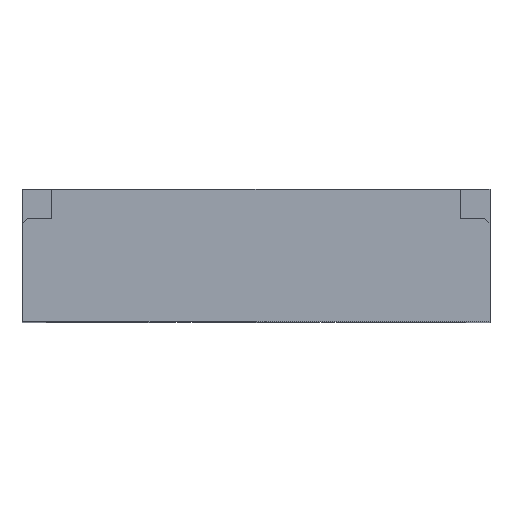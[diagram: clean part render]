
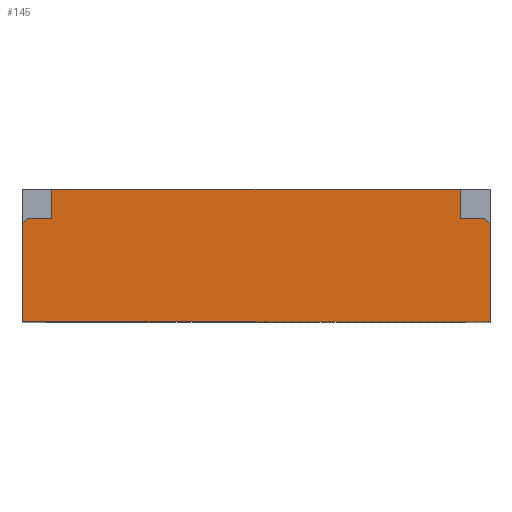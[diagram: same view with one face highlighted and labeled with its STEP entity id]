
A CAD part, top view. The second image highlights one B-rep face of the part: STEP entity #145.
In plain terms, the highlighted planar face has unit normal (0, 0, 1).
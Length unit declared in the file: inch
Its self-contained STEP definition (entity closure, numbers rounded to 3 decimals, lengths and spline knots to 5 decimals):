
#145=ADVANCED_FACE('',(#306),#2640,.T.);
#306=FACE_OUTER_BOUND('',#469,.T.);
#469=EDGE_LOOP('',(#1198,#1199,#1200,#1201,#1202,#1203,#1204,#1205,#1206,
#1207));
#1198=ORIENTED_EDGE('',*,*,#1369,.F.);
#1199=ORIENTED_EDGE('',*,*,#1367,.F.);
#1200=ORIENTED_EDGE('',*,*,#1368,.F.);
#1201=ORIENTED_EDGE('',*,*,#1760,.T.);
#1202=ORIENTED_EDGE('',*,*,#1715,.F.);
#1203=ORIENTED_EDGE('',*,*,#1716,.T.);
#1204=ORIENTED_EDGE('',*,*,#1717,.T.);
#1205=ORIENTED_EDGE('',*,*,#1719,.T.);
#1206=ORIENTED_EDGE('',*,*,#1718,.F.);
#1207=ORIENTED_EDGE('',*,*,#1762,.T.);
#1367=EDGE_CURVE('',#2261,#2262,#1847,.T.);
#1368=EDGE_CURVE('',#2494,#2261,#1848,.T.);
#1369=EDGE_CURVE('',#2262,#2495,#1849,.T.);
#1715=EDGE_CURVE('',#2470,#2497,#2126,.T.);
#1716=EDGE_CURVE('',#2470,#2471,#2127,.T.);
#1717=EDGE_CURVE('',#2471,#2473,#2128,.T.);
#1718=EDGE_CURVE('',#2498,#2472,#2129,.T.);
#1719=EDGE_CURVE('',#2473,#2472,#2130,.T.);
#1760=EDGE_CURVE('',#2494,#2497,#2171,.T.);
#1762=EDGE_CURVE('',#2498,#2495,#2173,.T.);
#1847=B_SPLINE_CURVE_WITH_KNOTS('',1,(#4134,#4135),.UNSPECIFIED.,.F.,.F.,
(2,2),(0.,4.3838),.UNSPECIFIED.);
#1848=B_SPLINE_CURVE_WITH_KNOTS('',1,(#4136,#4137),.UNSPECIFIED.,.F.,.F.,
(2,2),(-0.9229,0.),.UNSPECIFIED.);
#1849=B_SPLINE_CURVE_WITH_KNOTS('',1,(#4138,#4139),.UNSPECIFIED.,.F.,.F.,
(2,2),(0.,0.9229),.UNSPECIFIED.);
#2126=B_SPLINE_CURVE_WITH_KNOTS('',1,(#5224,#5225),.UNSPECIFIED.,.F.,.F.,
(2,2),(0.,0.22986),.UNSPECIFIED.);
#2127=B_SPLINE_CURVE_WITH_KNOTS('',1,(#5226,#5227),.UNSPECIFIED.,.F.,.F.,
(2,2),(0.,0.27079),.UNSPECIFIED.);
#2128=B_SPLINE_CURVE_WITH_KNOTS('',1,(#5228,#5229),.UNSPECIFIED.,.F.,.F.,
(2,2),(0.27986,4.10395),.UNSPECIFIED.);
#2129=B_SPLINE_CURVE_WITH_KNOTS('',1,(#5230,#5231),.UNSPECIFIED.,.F.,.F.,
(2,2),(0.05,0.27986),.UNSPECIFIED.);
#2130=B_SPLINE_CURVE_WITH_KNOTS('',1,(#5232,#5233),.UNSPECIFIED.,.F.,.F.,
(2,2),(0.,0.27079),.UNSPECIFIED.);
#2171=B_SPLINE_CURVE_WITH_KNOTS('',1,(#5318,#5319),.UNSPECIFIED.,.F.,.F.,
(2,2),(0.,0.07071),.UNSPECIFIED.);
#2173=B_SPLINE_CURVE_WITH_KNOTS('',1,(#5322,#5323),.UNSPECIFIED.,.F.,.F.,
(2,2),(-0.07071,0.),.UNSPECIFIED.);
#2261=VERTEX_POINT('',#3861);
#2262=VERTEX_POINT('',#3862);
#2470=VERTEX_POINT('',#4070);
#2471=VERTEX_POINT('',#4071);
#2472=VERTEX_POINT('',#4072);
#2473=VERTEX_POINT('',#4073);
#2494=VERTEX_POINT('',#4094);
#2495=VERTEX_POINT('',#4095);
#2497=VERTEX_POINT('',#4097);
#2498=VERTEX_POINT('',#4098);
#2640=PLANE('',#2888);
#2888=AXIS2_PLACEMENT_3D('',#3559,#3044,$);
#3044=DIRECTION('',(0.,0.,1.));
#3559=CARTESIAN_POINT('',(-20.86904,34.32267,4.14224));
#3861=CARTESIAN_POINT('',(-16.48524,34.32267,4.14224));
#3862=CARTESIAN_POINT('',(-20.86904,34.32267,4.14224));
#4070=CARTESIAN_POINT('',(-16.7651,35.29557,4.14224));
#4071=CARTESIAN_POINT('',(-16.7651,35.56636,4.14224));
#4072=CARTESIAN_POINT('',(-20.58919,35.29557,4.14224));
#4073=CARTESIAN_POINT('',(-20.58919,35.56636,4.14224));
#4094=CARTESIAN_POINT('',(-16.48524,35.24557,4.14224));
#4095=CARTESIAN_POINT('',(-20.86904,35.24557,4.14224));
#4097=CARTESIAN_POINT('',(-16.53524,35.29557,4.14224));
#4098=CARTESIAN_POINT('',(-20.81904,35.29557,4.14224));
#4134=CARTESIAN_POINT('',(-16.48524,34.32267,4.14224));
#4135=CARTESIAN_POINT('',(-20.86904,34.32267,4.14224));
#4136=CARTESIAN_POINT('',(-16.48524,35.24557,4.14224));
#4137=CARTESIAN_POINT('',(-16.48524,34.32267,4.14224));
#4138=CARTESIAN_POINT('',(-20.86904,34.32267,4.14224));
#4139=CARTESIAN_POINT('',(-20.86904,35.24557,4.14224));
#5224=CARTESIAN_POINT('',(-16.7651,35.29557,4.14224));
#5225=CARTESIAN_POINT('',(-16.53524,35.29557,4.14224));
#5226=CARTESIAN_POINT('',(-16.7651,35.29557,4.14224));
#5227=CARTESIAN_POINT('',(-16.7651,35.56636,4.14224));
#5228=CARTESIAN_POINT('',(-16.7651,35.56636,4.14224));
#5229=CARTESIAN_POINT('',(-20.58919,35.56636,4.14224));
#5230=CARTESIAN_POINT('',(-20.81904,35.29557,4.14224));
#5231=CARTESIAN_POINT('',(-20.58919,35.29557,4.14224));
#5232=CARTESIAN_POINT('',(-20.58919,35.56636,4.14224));
#5233=CARTESIAN_POINT('',(-20.58919,35.29557,4.14224));
#5318=CARTESIAN_POINT('',(-16.48524,35.24557,4.14224));
#5319=CARTESIAN_POINT('',(-16.53524,35.29557,4.14224));
#5322=CARTESIAN_POINT('',(-20.81904,35.29557,4.14224));
#5323=CARTESIAN_POINT('',(-20.86904,35.24557,4.14224));
